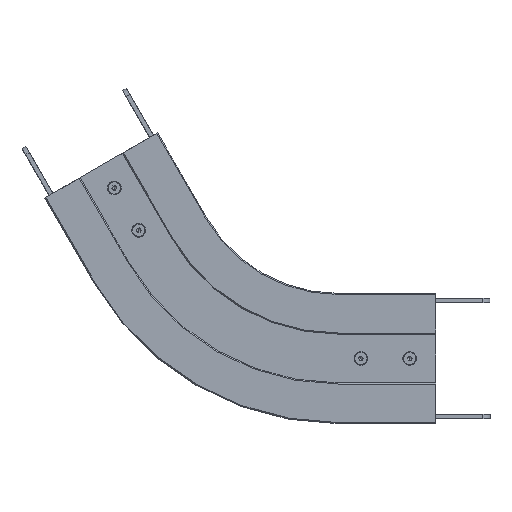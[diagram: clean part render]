
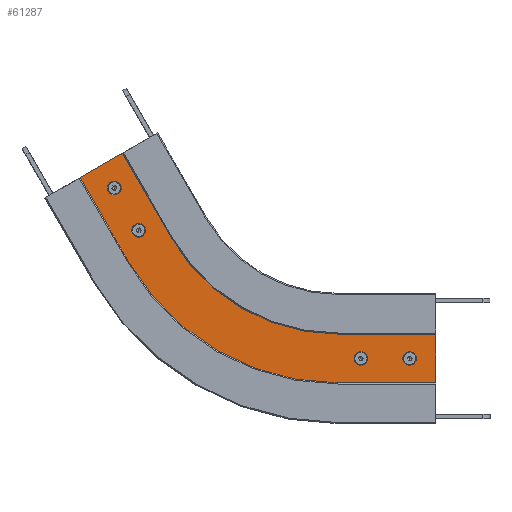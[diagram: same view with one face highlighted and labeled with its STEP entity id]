
A CAD part, front view. The second image highlights one B-rep face of the part: STEP entity #61287.
In plain terms, the highlighted planar face has unit normal (0, -1, 0).
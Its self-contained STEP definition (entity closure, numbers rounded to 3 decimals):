
#2307 = CIRCLE ( 'NONE', #7254, 6.3 ) ;
#2367 = CIRCLE ( 'NONE', #7269, 6.3 ) ;
#2371 = LINE ( 'NONE', #8883, #2387 ) ;
#2387 = VECTOR ( 'NONE', #8893, 1000. ) ;
#2415 = LINE ( 'NONE', #8915, #2421 ) ;
#2421 = VECTOR ( 'NONE', #8916, 1000. ) ;
#2477 = CIRCLE ( 'NONE', #7297, 6.3 ) ;
#2503 = CIRCLE ( 'NONE', #7303, 6.3 ) ;
#2507 = CIRCLE ( 'NONE', #7305, 6.3 ) ;
#2509 = LINE ( 'NONE', #8991, #2515 ) ;
#2515 = VECTOR ( 'NONE', #8982, 1000. ) ;
#2549 = CIRCLE ( 'NONE', #7311, 6.3 ) ;
#2611 = CIRCLE ( 'NONE', #7332, 6.3 ) ;
#2651 = CIRCLE ( 'NONE', #7353, 165. ) ;
#2679 = CIRCLE ( 'NONE', #7359, 6.3 ) ;
#2703 = LINE ( 'NONE', #9205, #2715 ) ;
#2714 = LINE ( 'NONE', #9209, #2717 ) ;
#2715 = VECTOR ( 'NONE', #9195, 1000. ) ;
#2717 = VECTOR ( 'NONE', #9210, 1000. ) ;
#2754 = LINE ( 'NONE', #9270, #2757 ) ;
#2757 = VECTOR ( 'NONE', #9271, 1000. ) ;
#2761 = CIRCLE ( 'NONE', #7392, 235. ) ;
#3448 = AXIS2_PLACEMENT_3D ( 'NONE', #23923, #23915, #23935 ) ;
#7254 = AXIS2_PLACEMENT_3D ( 'NONE', #8838, #8839, #8840 ) ;
#7269 = AXIS2_PLACEMENT_3D ( 'NONE', #8885, #8886, #8887 ) ;
#7297 = AXIS2_PLACEMENT_3D ( 'NONE', #8971, #8972, #8973 ) ;
#7303 = AXIS2_PLACEMENT_3D ( 'NONE', #8987, #8988, #8989 ) ;
#7305 = AXIS2_PLACEMENT_3D ( 'NONE', #8992, #8993, #8994 ) ;
#7311 = AXIS2_PLACEMENT_3D ( 'NONE', #9019, #9020, #9021 ) ;
#7332 = AXIS2_PLACEMENT_3D ( 'NONE', #9069, #9070, #9071 ) ;
#7353 = AXIS2_PLACEMENT_3D ( 'NONE', #9149, #9150, #9151 ) ;
#7359 = AXIS2_PLACEMENT_3D ( 'NONE', #9163, #9164, #9165 ) ;
#7392 = AXIS2_PLACEMENT_3D ( 'NONE', #9281, #9282, #9283 ) ;
#8838 = CARTESIAN_POINT ( 'NONE',  ( 497.419, -83.5, 217.158 ) ) ;
#8839 = DIRECTION ( 'NONE',  ( 0., -1., 0. ) ) ;
#8840 = DIRECTION ( 'NONE',  ( 1., 0., 0. ) ) ;
#8883 = CARTESIAN_POINT ( 'NONE',  ( 703.624, -83.5, 95. ) ) ;
#8885 = CARTESIAN_POINT ( 'NONE',  ( 519.919, -83.5, 178.187 ) ) ;
#8886 = DIRECTION ( 'NONE',  ( 0., -1., 0. ) ) ;
#8887 = DIRECTION ( 'NONE',  ( 1., 0., 0. ) ) ;
#8893 = DIRECTION ( 'NONE',  ( 1., 0., 0. ) ) ;
#8915 = CARTESIAN_POINT ( 'NONE',  ( 560.729, -83.5, 177.5 ) ) ;
#8916 = DIRECTION ( 'NONE',  ( -0.5, 0., 0.866 ) ) ;
#8971 = CARTESIAN_POINT ( 'NONE',  ( 769.624, -83.5, 60. ) ) ;
#8972 = DIRECTION ( 'NONE',  ( 0., -1., 0. ) ) ;
#8973 = DIRECTION ( 'NONE',  ( 1., 0., 0. ) ) ;
#8982 = DIRECTION ( 'NONE',  ( 0., 0., -1. ) ) ;
#8987 = CARTESIAN_POINT ( 'NONE',  ( 497.419, -83.5, 217.158 ) ) ;
#8988 = DIRECTION ( 'NONE',  ( 0., -1., 0. ) ) ;
#8989 = DIRECTION ( 'NONE',  ( 1., 0., 0. ) ) ;
#8991 = CARTESIAN_POINT ( 'NONE',  ( 793.624, -83.5, 25. ) ) ;
#8992 = CARTESIAN_POINT ( 'NONE',  ( 519.919, -83.5, 178.187 ) ) ;
#8993 = DIRECTION ( 'NONE',  ( 0., -1., 0. ) ) ;
#8994 = DIRECTION ( 'NONE',  ( 1., 0., 0. ) ) ;
#9019 = CARTESIAN_POINT ( 'NONE',  ( 769.624, -83.5, 60. ) ) ;
#9020 = DIRECTION ( 'NONE',  ( 0., -1., 0. ) ) ;
#9021 = DIRECTION ( 'NONE',  ( 1., 0., 0. ) ) ;
#9069 = CARTESIAN_POINT ( 'NONE',  ( 724.624, -83.5, 60. ) ) ;
#9070 = DIRECTION ( 'NONE',  ( 0., -1., 0. ) ) ;
#9071 = DIRECTION ( 'NONE',  ( 1., 0., 0. ) ) ;
#9149 = CARTESIAN_POINT ( 'NONE',  ( 703.624, -83.5, 260. ) ) ;
#9150 = DIRECTION ( 'NONE',  ( 0., 1., 0. ) ) ;
#9151 = DIRECTION ( 'NONE',  ( -1., 0., 0. ) ) ;
#9163 = CARTESIAN_POINT ( 'NONE',  ( 724.624, -83.5, 60. ) ) ;
#9164 = DIRECTION ( 'NONE',  ( 0., -1., 0. ) ) ;
#9165 = DIRECTION ( 'NONE',  ( 1., 0., 0. ) ) ;
#9195 = DIRECTION ( 'NONE',  ( 1., 0., 0. ) ) ;
#9205 = CARTESIAN_POINT ( 'NONE',  ( 703.624, -83.5, 25. ) ) ;
#9209 = CARTESIAN_POINT ( 'NONE',  ( 500.108, -83.5, 142.5 ) ) ;
#9210 = DIRECTION ( 'NONE',  ( -0.5, 0., 0.866 ) ) ;
#9270 = CARTESIAN_POINT ( 'NONE',  ( 455.108, -83.5, 220.442 ) ) ;
#9271 = DIRECTION ( 'NONE',  ( -0.866, 0., -0.5 ) ) ;
#9281 = CARTESIAN_POINT ( 'NONE',  ( 703.624, -83.5, 260. ) ) ;
#9282 = DIRECTION ( 'NONE',  ( 0., 1., 0. ) ) ;
#9283 = DIRECTION ( 'NONE',  ( -1., 0., 0. ) ) ;
#18970 = ORIENTED_EDGE ( 'NONE', *, *, #73498, .T. ) ;
#18975 = ORIENTED_EDGE ( 'NONE', *, *, #73528, .F. ) ;
#18977 = ORIENTED_EDGE ( 'NONE', *, *, #73499, .F. ) ;
#18979 = ORIENTED_EDGE ( 'NONE', *, *, #73524, .T. ) ;
#18984 = ORIENTED_EDGE ( 'NONE', *, *, #73375, .T. ) ;
#18986 = ORIENTED_EDGE ( 'NONE', *, *, #73472, .T. ) ;
#18989 = ORIENTED_EDGE ( 'NONE', *, *, #73365, .F. ) ;
#18994 = ORIENTED_EDGE ( 'NONE', *, *, #73406, .F. ) ;
#18998 = ORIENTED_EDGE ( 'NONE', *, *, #73342, .F. ) ;
#19001 = ORIENTED_EDGE ( 'NONE', *, *, #73404, .F. ) ;
#19006 = ORIENTED_EDGE ( 'NONE', *, *, #73361, .F. ) ;
#19008 = ORIENTED_EDGE ( 'NONE', *, *, #73405, .F. ) ;
#19011 = ORIENTED_EDGE ( 'NONE', *, *, #73479, .F. ) ;
#19016 = ORIENTED_EDGE ( 'NONE', *, *, #73438, .F. ) ;
#19018 = ORIENTED_EDGE ( 'NONE', *, *, #73397, .F. ) ;
#19020 = ORIENTED_EDGE ( 'NONE', *, *, #73417, .F. ) ;
#20418 = CARTESIAN_POINT ( 'NONE',  ( 763.324, -83.5, 60. ) ) ;
#20436 = CARTESIAN_POINT ( 'NONE',  ( 775.924, -83.5, 60. ) ) ;
#23915 = DIRECTION ( 'NONE',  ( 0., -1., 0. ) ) ;
#23923 = CARTESIAN_POINT ( 'NONE',  ( 703.624, -83.5, 25. ) ) ;
#23929 = PLANE ( 'NONE',  #3448 ) ;
#23935 = DIRECTION ( 'NONE',  ( 1., 0., 0. ) ) ;
#25613 = VERTEX_POINT ( 'NONE', #20418 ) ;
#25631 = VERTEX_POINT ( 'NONE', #20436 ) ;
#28959 = VERTEX_POINT ( 'NONE', #31108 ) ;
#28964 = VERTEX_POINT ( 'NONE', #31105 ) ;
#28965 = VERTEX_POINT ( 'NONE', #31111 ) ;
#28972 = VERTEX_POINT ( 'NONE', #31118 ) ;
#28973 = VERTEX_POINT ( 'NONE', #31119 ) ;
#28978 = VERTEX_POINT ( 'NONE', #31124 ) ;
#29187 = VERTEX_POINT ( 'NONE', #31333 ) ;
#29326 = VERTEX_POINT ( 'NONE', #31473 ) ;
#29353 = VERTEX_POINT ( 'NONE', #31500 ) ;
#29359 = VERTEX_POINT ( 'NONE', #31506 ) ;
#29364 = VERTEX_POINT ( 'NONE', #31511 ) ;
#29369 = VERTEX_POINT ( 'NONE', #31516 ) ;
#29376 = VERTEX_POINT ( 'NONE', #43420 ) ;
#29378 = VERTEX_POINT ( 'NONE', #43426 ) ;
#31105 = CARTESIAN_POINT ( 'NONE',  ( 513.619, -83.5, 178.187 ) ) ;
#31108 = CARTESIAN_POINT ( 'NONE',  ( 718.324, -83.5, 60. ) ) ;
#31111 = CARTESIAN_POINT ( 'NONE',  ( 526.219, -83.5, 178.187 ) ) ;
#31118 = CARTESIAN_POINT ( 'NONE',  ( 455.108, -83.5, 220.442 ) ) ;
#31119 = CARTESIAN_POINT ( 'NONE',  ( 560.729, -83.5, 177.5 ) ) ;
#31124 = CARTESIAN_POINT ( 'NONE',  ( 500.108, -83.5, 142.5 ) ) ;
#31333 = CARTESIAN_POINT ( 'NONE',  ( 491.119, -83.5, 217.158 ) ) ;
#31473 = CARTESIAN_POINT ( 'NONE',  ( 793.624, -83.5, 95. ) ) ;
#31500 = CARTESIAN_POINT ( 'NONE',  ( 703.624, -83.5, 25. ) ) ;
#31506 = CARTESIAN_POINT ( 'NONE',  ( 793.624, -83.5, 25. ) ) ;
#31511 = CARTESIAN_POINT ( 'NONE',  ( 503.719, -83.5, 217.158 ) ) ;
#31516 = CARTESIAN_POINT ( 'NONE',  ( 703.624, -83.5, 95. ) ) ;
#43420 = CARTESIAN_POINT ( 'NONE',  ( 515.729, -83.5, 255.442 ) ) ;
#43426 = CARTESIAN_POINT ( 'NONE',  ( 730.924, -83.5, 60. ) ) ;
#56246 = FACE_OUTER_BOUND ( 'NONE', #70333, .T. ) ;
#56255 = FACE_BOUND ( 'NONE', #70323, .T. ) ;
#56256 = FACE_BOUND ( 'NONE', #70339, .T. ) ;
#56257 = FACE_BOUND ( 'NONE', #70285, .T. ) ;
#56258 = FACE_BOUND ( 'NONE', #70329, .T. ) ;
#61287 = ADVANCED_FACE ( 'NONE', ( #56255, #56258, #56256, #56257, #56246 ), #23929, .T. ) ;
#70285 = EDGE_LOOP ( 'NONE', ( #19001, #18998 ) ) ;
#70323 = EDGE_LOOP ( 'NONE', ( #19020, #19018 ) ) ;
#70329 = EDGE_LOOP ( 'NONE', ( #19016, #19011 ) ) ;
#70333 = EDGE_LOOP ( 'NONE', ( #18994, #18989, #18986, #18984, #18979, #18977, #18975, #18970 ) ) ;
#70339 = EDGE_LOOP ( 'NONE', ( #19008, #19006 ) ) ;
#73342 = EDGE_CURVE ( 'NONE', #29187, #29364, #2307, .T. ) ;
#73361 = EDGE_CURVE ( 'NONE', #28964, #28965, #2367, .T. ) ;
#73365 = EDGE_CURVE ( 'NONE', #29369, #29326, #2371, .T. ) ;
#73375 = EDGE_CURVE ( 'NONE', #28973, #29376, #2415, .T. ) ;
#73397 = EDGE_CURVE ( 'NONE', #25613, #25631, #2477, .T. ) ;
#73404 = EDGE_CURVE ( 'NONE', #29364, #29187, #2503, .T. ) ;
#73405 = EDGE_CURVE ( 'NONE', #28965, #28964, #2507, .T. ) ;
#73406 = EDGE_CURVE ( 'NONE', #29326, #29359, #2509, .T. ) ;
#73417 = EDGE_CURVE ( 'NONE', #25631, #25613, #2549, .T. ) ;
#73438 = EDGE_CURVE ( 'NONE', #29378, #28959, #2611, .T. ) ;
#73472 = EDGE_CURVE ( 'NONE', #29369, #28973, #2651, .T. ) ;
#73479 = EDGE_CURVE ( 'NONE', #28959, #29378, #2679, .T. ) ;
#73498 = EDGE_CURVE ( 'NONE', #29353, #29359, #2703, .T. ) ;
#73499 = EDGE_CURVE ( 'NONE', #28978, #28972, #2714, .T. ) ;
#73524 = EDGE_CURVE ( 'NONE', #29376, #28972, #2754, .T. ) ;
#73528 = EDGE_CURVE ( 'NONE', #29353, #28978, #2761, .T. ) ;
